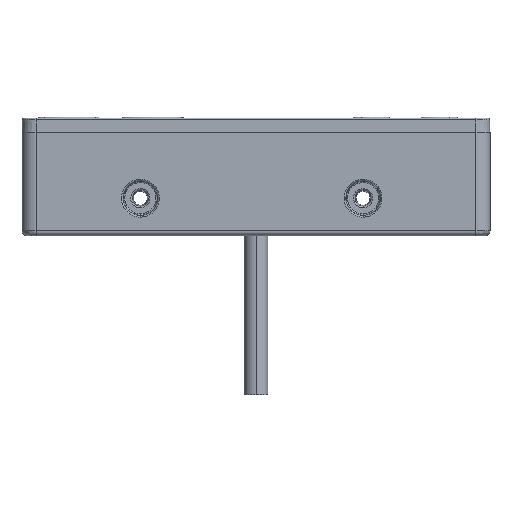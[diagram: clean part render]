
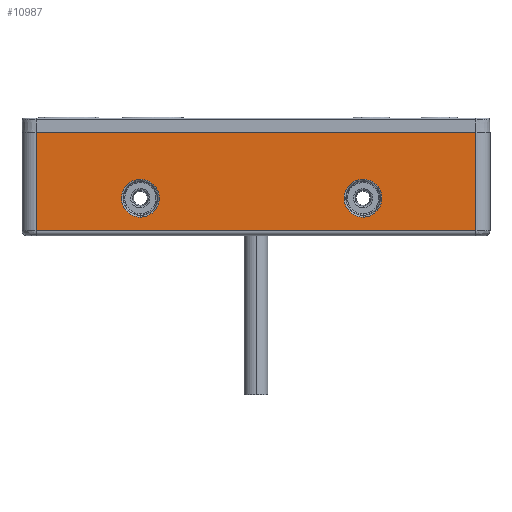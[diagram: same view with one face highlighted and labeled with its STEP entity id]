
A CAD part, front view. The second image highlights one B-rep face of the part: STEP entity #10987.
In plain terms, the highlighted planar face has unit normal (0, -1, 0).
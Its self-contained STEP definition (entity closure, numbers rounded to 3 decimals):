
#664 = CARTESIAN_POINT ( 'NONE',  ( -71.473, 0.129, -14. ) ) ;
#672 = PLANE ( 'NONE',  #12072 ) ;
#696 = DIRECTION ( 'NONE',  ( 0., 1., 0. ) ) ;
#702 = DIRECTION ( 'NONE',  ( 0., 0., 1. ) ) ;
#4309 = CARTESIAN_POINT ( 'NONE',  ( -1.598, 0.129, -2.955 ) ) ;
#4311 = CARTESIAN_POINT ( 'NONE',  ( -9.688, 0.129, -11.045 ) ) ;
#4319 = CARTESIAN_POINT ( 'NONE',  ( -9.688, 0.129, -2.955 ) ) ;
#4357 = CARTESIAN_POINT ( 'NONE',  ( -1.598, 0.129, -11.045 ) ) ;
#4417 = CARTESIAN_POINT ( 'NONE',  ( -1.598, 0.129, -11.045 ) ) ;
#4425 = CARTESIAN_POINT ( 'NONE',  ( 6.491, 0.129, -11.045 ) ) ;
#4428 = CARTESIAN_POINT ( 'NONE',  ( 6.491, 0.129, -2.955 ) ) ;
#4430 = CARTESIAN_POINT ( 'NONE',  ( -1.598, 0.129, -2.955 ) ) ;
#4460 = CARTESIAN_POINT ( 'NONE',  ( -49.175, 0.129, -2.955 ) ) ;
#4474 = CARTESIAN_POINT ( 'NONE',  ( -49.175, 0.129, -11.045 ) ) ;
#4475 = CARTESIAN_POINT ( 'NONE',  ( -41.085, 0.129, -2.955 ) ) ;
#4481 = CARTESIAN_POINT ( 'NONE',  ( -41.085, 0.129, -11.045 ) ) ;
#4942 = LINE ( 'NONE', #5637, #4946 ) ;
#4946 = VECTOR ( 'NONE', #5642, 1000. ) ;
#4987 = LINE ( 'NONE', #6083, #5005 ) ;
#4988 = LINE ( 'NONE', #6052, #4994 ) ;
#4994 = VECTOR ( 'NONE', #6087, 1000. ) ;
#5005 = VECTOR ( 'NONE', #6062, 1000. ) ;
#5014 = LINE ( 'NONE', #5801, #5015 ) ;
#5015 = VECTOR ( 'NONE', #5807, 1000. ) ;
#5637 = CARTESIAN_POINT ( 'NONE',  ( -71.473, 0.129, -3.5 ) ) ;
#5642 = DIRECTION ( 'NONE',  ( 0., 0., 1. ) ) ;
#5801 = CARTESIAN_POINT ( 'NONE',  ( -24.473, 0.129, -14. ) ) ;
#5807 = DIRECTION ( 'NONE',  ( -1., 0., 0. ) ) ;
#5901 = CARTESIAN_POINT ( 'NONE',  ( -49.175, 0.129, -2.955 ) ) ;
#5902 = CARTESIAN_POINT ( 'NONE',  ( -49.175, 0.129, -11.045 ) ) ;
#5913 = CARTESIAN_POINT ( 'NONE',  ( -57.265, 0.129, -11.045 ) ) ;
#5924 = CARTESIAN_POINT ( 'NONE',  ( -57.265, 0.129, -2.955 ) ) ;
#6052 = CARTESIAN_POINT ( 'NONE',  ( -24.473, 0.129, 7. ) ) ;
#6062 = DIRECTION ( 'NONE',  ( 0., 0., -1. ) ) ;
#6083 = CARTESIAN_POINT ( 'NONE',  ( 22.527, 0.129, -3.5 ) ) ;
#6087 = DIRECTION ( 'NONE',  ( 1., 0., 0. ) ) ;
#9899 = VERTEX_POINT ( 'NONE', #13393 ) ;
#9900 = VERTEX_POINT ( 'NONE', #13399 ) ;
#9909 = VERTEX_POINT ( 'NONE', #13375 ) ;
#9911 = VERTEX_POINT ( 'NONE', #13425 ) ;
#9925 = VERTEX_POINT ( 'NONE', #13388 ) ;
#9952 = VERTEX_POINT ( 'NONE', #13468 ) ;
#9954 = VERTEX_POINT ( 'NONE', #13448 ) ;
#9959 = VERTEX_POINT ( 'NONE', #13447 ) ;
#10069 = EDGE_LOOP ( 'NONE', ( #10641, #10663 ) ) ;
#10091 = EDGE_LOOP ( 'NONE', ( #10617, #10638, #10688, #10604 ) ) ;
#10604 = ORIENTED_EDGE ( 'NONE', *, *, #11393, .F. ) ;
#10617 = ORIENTED_EDGE ( 'NONE', *, *, #11420, .F. ) ;
#10638 = ORIENTED_EDGE ( 'NONE', *, *, #11448, .F. ) ;
#10641 = ORIENTED_EDGE ( 'NONE', *, *, #11431, .F. ) ;
#10663 = ORIENTED_EDGE ( 'NONE', *, *, #11192, .F. ) ;
#10678 = ORIENTED_EDGE ( 'NONE', *, *, #11135, .F. ) ;
#10684 = ORIENTED_EDGE ( 'NONE', *, *, #11175, .F. ) ;
#10688 = ORIENTED_EDGE ( 'NONE', *, *, #11447, .F. ) ;
#10803 = EDGE_LOOP ( 'NONE', ( #10678, #10684 ) ) ;
#10987 = ADVANCED_FACE ( 'NONE', ( #14244, #14263, #14285 ), #672, .F. ) ;
#11135 = EDGE_CURVE ( 'NONE', #9959, #9952, #14727, .T. ) ;
#11175 = EDGE_CURVE ( 'NONE', #9952, #9959, #14678, .T. ) ;
#11192 = EDGE_CURVE ( 'NONE', #9954, #9925, #14710, .T. ) ;
#11393 = EDGE_CURVE ( 'NONE', #9899, #9909, #4942, .T. ) ;
#11420 = EDGE_CURVE ( 'NONE', #9900, #9899, #5014, .T. ) ;
#11431 = EDGE_CURVE ( 'NONE', #9925, #9954, #14707, .T. ) ;
#11447 = EDGE_CURVE ( 'NONE', #9909, #9911, #4988, .T. ) ;
#11448 = EDGE_CURVE ( 'NONE', #9911, #9900, #4987, .T. ) ;
#12072 = AXIS2_PLACEMENT_3D ( 'NONE', #664, #696, #702 ) ;
#13375 = CARTESIAN_POINT ( 'NONE',  ( -71.473, 0.129, 7. ) ) ;
#13388 = CARTESIAN_POINT ( 'NONE',  ( -49.175, 0.129, -2.955 ) ) ;
#13393 = CARTESIAN_POINT ( 'NONE',  ( -71.473, 0.129, -14. ) ) ;
#13399 = CARTESIAN_POINT ( 'NONE',  ( 22.527, 0.129, -14. ) ) ;
#13425 = CARTESIAN_POINT ( 'NONE',  ( 22.527, 0.129, 7. ) ) ;
#13447 = CARTESIAN_POINT ( 'NONE',  ( -1.598, 0.129, -2.955 ) ) ;
#13448 = CARTESIAN_POINT ( 'NONE',  ( -49.175, 0.129, -11.045 ) ) ;
#13468 = CARTESIAN_POINT ( 'NONE',  ( -1.598, 0.129, -11.045 ) ) ;
#14244 = FACE_BOUND ( 'NONE', #10803, .T. ) ;
#14263 = FACE_BOUND ( 'NONE', #10069, .T. ) ;
#14285 = FACE_OUTER_BOUND ( 'NONE', #10091, .T. ) ;
#14678 =( BOUNDED_CURVE ( )  B_SPLINE_CURVE ( 3, ( #4417, #4425, #4428, #4430 ),
 .UNSPECIFIED., .F., .T. ) 
 B_SPLINE_CURVE_WITH_KNOTS ( ( 4, 4 ),
 ( 0., 1. ),
 .UNSPECIFIED. ) 
 CURVE ( )  GEOMETRIC_REPRESENTATION_ITEM ( )  RATIONAL_B_SPLINE_CURVE ( ( 0.957, 0.319, 0.319, 0.957 ) ) 
 REPRESENTATION_ITEM ( '' )  );
#14707 =( BOUNDED_CURVE ( )  B_SPLINE_CURVE ( 3, ( #5901, #5924, #5913, #5902 ),
 .UNSPECIFIED., .F., .T. ) 
 B_SPLINE_CURVE_WITH_KNOTS ( ( 4, 4 ),
 ( 0., 1. ),
 .UNSPECIFIED. ) 
 CURVE ( )  GEOMETRIC_REPRESENTATION_ITEM ( )  RATIONAL_B_SPLINE_CURVE ( ( 0.957, 0.319, 0.319, 0.957 ) ) 
 REPRESENTATION_ITEM ( '' )  );
#14710 =( BOUNDED_CURVE ( )  B_SPLINE_CURVE ( 3, ( #4474, #4481, #4475, #4460 ),
 .UNSPECIFIED., .F., .T. ) 
 B_SPLINE_CURVE_WITH_KNOTS ( ( 4, 4 ),
 ( 0., 1. ),
 .UNSPECIFIED. ) 
 CURVE ( )  GEOMETRIC_REPRESENTATION_ITEM ( )  RATIONAL_B_SPLINE_CURVE ( ( 0.957, 0.319, 0.319, 0.957 ) ) 
 REPRESENTATION_ITEM ( '' )  );
#14727 =( BOUNDED_CURVE ( )  B_SPLINE_CURVE ( 3, ( #4309, #4319, #4311, #4357 ),
 .UNSPECIFIED., .F., .F. ) 
 B_SPLINE_CURVE_WITH_KNOTS ( ( 4, 4 ),
 ( 0., 1. ),
 .UNSPECIFIED. ) 
 CURVE ( )  GEOMETRIC_REPRESENTATION_ITEM ( )  RATIONAL_B_SPLINE_CURVE ( ( 0.957, 0.319, 0.319, 0.957 ) ) 
 REPRESENTATION_ITEM ( '' )  );
